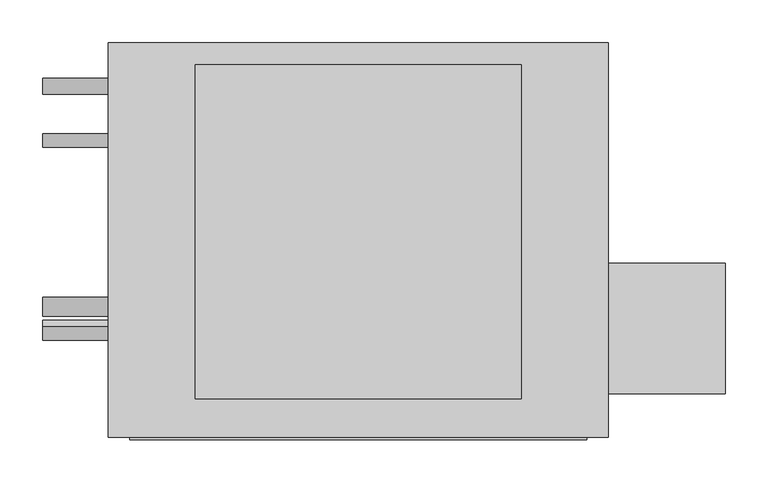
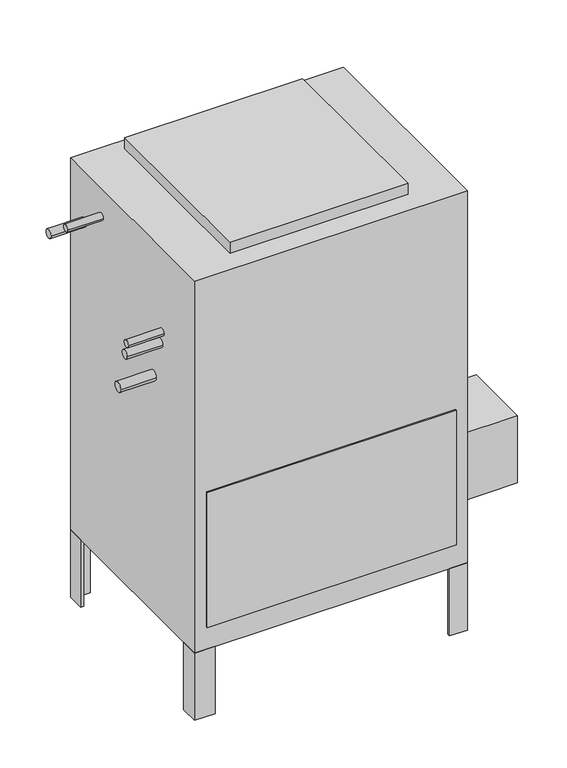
"""IFC4 building model written with IfcOpenShell, lengths in millimetres: proxy geometry, Concealed_High_Capacity_Vertical_Fan_Coil_Unit_-_42DDA_-_CARRIER_-_4-Pipe_LH_2022 : Size 06 - 277v/60Hz/1Ph - 4/2 Coil."""

from ifc_helpers import new_model, si_unit, point, frame, frame_2d, origin, origin_with_axes, place, context, project, spatial, polyline, circle_curve, trimmed, segment, composite_curve, outline, extrude, source, transform, mapped, element, save


def mechanical_equipment_52866f31(model_context):
    return source(origin(), model_context, "Body", "SweptSolid", [
        extrude(outline(polyline([(581.025, -265.1125), (581.025, -417.5125), (444.5, -417.5125), (444.5, -265.1125), (581.025, -265.1125)])), frame((0.0, 0.0, 101.6), z_axis=(0.0, 0.0, 1.0), x_axis=(1.0, 0.0, 0.0)), (0.0, 0.0, 1.0), 152.4),
        extrude(outline(polyline([(444.5, -46.0375), (438.15, -46.0375), (438.15, -14.2875), (406.4, -14.2875), (406.4, -7.9375), (444.5, -7.9375), (444.5, -46.0375)])), frame((0.0, 0.0, -152.4), z_axis=(0.0, 0.0, 1.0), x_axis=(1.0, 0.0, 0.0)), (0.0, 0.0, 1.0), 152.4),
        extrude(outline(polyline([(-101.6, -7.9375), (-101.6, -14.2875), (-133.35, -14.2875), (-133.35, -46.0375), (-139.7, -46.0375), (-139.7, -7.9375), (-101.6, -7.9375)])), frame((0.0, 0.0, -152.4), z_axis=(0.0, 0.0, 1.0), x_axis=(1.0, 0.0, 0.0)), (0.0, 0.0, 1.0), 152.4),
        extrude(outline(polyline([(406.4, -468.3125), (406.4, -461.9625), (438.15, -461.9625), (438.15, -430.2125), (444.5, -430.2125), (444.5, -468.3125), (406.4, -468.3125)])), frame((0.0, 0.0, -152.4), z_axis=(0.0, 0.0, 1.0), x_axis=(1.0, 0.0, 0.0)), (0.0, 0.0, 1.0), 152.4),
        extrude(outline(polyline([(-139.7, -428.1199163), (-133.35, -428.1199163), (-133.35, -461.9625), (-96.2318533, -461.9625), (-96.2318533, -468.3125), (-139.7, -468.3125), (-139.7, -428.1199163)])), frame((0.0, 0.0, -152.4), z_axis=(0.0, 0.0, 1.0), x_axis=(1.0, 0.0, 0.0)), (0.0, 0.0, 1.0), 152.4),
        extrude(outline(polyline([(342.9, -33.3375), (342.9, -423.8625), (-38.1, -423.8625), (-38.1, -33.3375), (342.9, -33.3375)])), frame((0.0, 0.0, 841.375), z_axis=(0.0, 0.0, 1.0), x_axis=(1.0, 0.0, 0.0)), (0.0, 0.0, 1.0), 25.4),
        extrude(outline(polyline([(419.1, -471.4875), (-114.3, -471.4875), (-114.3, -468.3125), (419.1, -468.3125), (419.1, -471.4875)])), frame((0.0, 0.0, 50.8), z_axis=(0.0, 0.0, 1.0), x_axis=(1.0, 0.0, 0.0)), (0.0, 0.0, 1.0), 304.8),
        extrude(outline(composite_curve([segment(trimmed(circle_curve(frame_2d((-122.2375, 777.875)), 7.9375), [point((-130.175, 777.875))], [point((-114.3, 777.875))], False, "CARTESIAN"), True, "CONTINUOUS"), segment(trimmed(circle_curve(frame_2d((-122.2375, 777.875)), 7.9375), [point((-114.3, 777.875))], [point((-130.175, 777.875))], False, "CARTESIAN"), True, "CONTINUOUS")], self_intersect=False)), frame((-215.9, 0.0, 0.0), z_axis=(1.0, 0.0, 0.0), x_axis=(0.0, 1.0, 0.0)), (0.0, 0.0, 1.0), 76.2),
        extrude(outline(composite_curve([segment(trimmed(circle_curve(frame_2d((-347.3848135, 653.2230057)), 7.9375), [point((-355.3223135, 653.2230057))], [point((-339.4473135, 653.2230057))], False, "CARTESIAN"), True, "CONTINUOUS"), segment(trimmed(circle_curve(frame_2d((-347.3848135, 653.2230057)), 7.9375), [point((-339.4473135, 653.2230057))], [point((-355.3223135, 653.2230057))], False, "CARTESIAN"), True, "CONTINUOUS")], self_intersect=False)), frame((-215.9, 0.0, 0.0), z_axis=(1.0, 0.0, 0.0), x_axis=(0.0, 1.0, 0.0)), (0.0, 0.0, 1.0), 76.2),
        extrude(outline(composite_curve([segment(trimmed(circle_curve(frame_2d((-58.7375, 727.075)), 9.525), [point((-68.2625, 727.075))], [point((-49.2125, 727.075))], False, "CARTESIAN"), True, "CONTINUOUS"), segment(trimmed(circle_curve(frame_2d((-58.7375, 727.075)), 9.525), [point((-49.2125, 727.075))], [point((-68.2625, 727.075))], False, "CARTESIAN"), True, "CONTINUOUS")], self_intersect=False)), frame((-215.9, 0.0, 0.0), z_axis=(1.0, 0.0, 0.0), x_axis=(0.0, 1.0, 0.0)), (0.0, 0.0, 1.0), 76.2),
        extrude(outline(composite_curve([segment(trimmed(circle_curve(frame_2d((-341.3125, 625.475)), 9.525), [point((-350.8375, 625.475))], [point((-331.7875, 625.475))], False, "CARTESIAN"), True, "CONTINUOUS"), segment(trimmed(circle_curve(frame_2d((-341.3125, 625.475)), 9.525), [point((-331.7875, 625.475))], [point((-350.8375, 625.475))], False, "CARTESIAN"), True, "CONTINUOUS")], self_intersect=False)), frame((-215.9, 0.0, 0.0), z_axis=(1.0, 0.0, 0.0), x_axis=(0.0, 1.0, 0.0)), (0.0, 0.0, 1.0), 76.2),
        extrude(outline(composite_curve([segment(trimmed(circle_curve(frame_2d((-315.9125, 536.575)), 11.1125), [point((-327.025, 536.575))], [point((-304.8, 536.575))], False, "CARTESIAN"), True, "CONTINUOUS"), segment(trimmed(circle_curve(frame_2d((-315.9125, 536.575)), 11.1125), [point((-304.8, 536.575))], [point((-327.025, 536.575))], False, "CARTESIAN"), True, "CONTINUOUS")], self_intersect=False)), frame((-215.9, 0.0, 0.0), z_axis=(1.0, 0.0, 0.0), x_axis=(0.0, 1.0, 0.0)), (0.0, 0.0, 1.0), 76.2),
        extrude(outline(polyline([(444.5, -7.9375), (444.5, -468.3125), (-139.7, -468.3125), (-139.7, -7.9375), (444.5, -7.9375)])), origin_with_axes(), (0.0, 0.0, 1.0), 841.375),
    ])


if __name__ == "__main__":
    model = new_model("IFC4")
    model_context = context("Model", 3, world=origin())
    ifc_project = project(units=[si_unit("LENGTHUNIT", "METRE", prefix="MILLI")], contexts=[model_context])
    site = spatial("IfcSite", under=ifc_project)
    building = spatial("IfcBuilding", under=site)
    placement = place(None, origin())
    mechanical_equipment_shape = mechanical_equipment_52866f31(model_context)
    element("IfcBuildingElementProxy", 1, Name="Concealed_High_Capacity_Vertical_Fan_Coil_Unit_-_42DDA_-_CARRIER_-_4-Pipe_LH_2022 : Size 06 - 277v/60Hz/1Ph - 4/2 Coil", ObjectType="Concealed_High_Capacity_Vertical_Fan_Coil_Unit_-_42DDA_-_CARRIER_-_4-Pipe_LH_2022 : Size 06 - 277v/60Hz/1Ph - 4/2 Coil", at=placement, inside=building, context=model_context, shape_type="MappedRepresentation", body=[
        mapped(mechanical_equipment_shape, transform((0.0, 0.0, 0.0), x_axis=(1.0, 0.0, 0.0), y_axis=(0.0, 1.0, 0.0), z_axis=(0.0, 0.0, 1.0))),
    ])
    save(model, "model.ifc")
